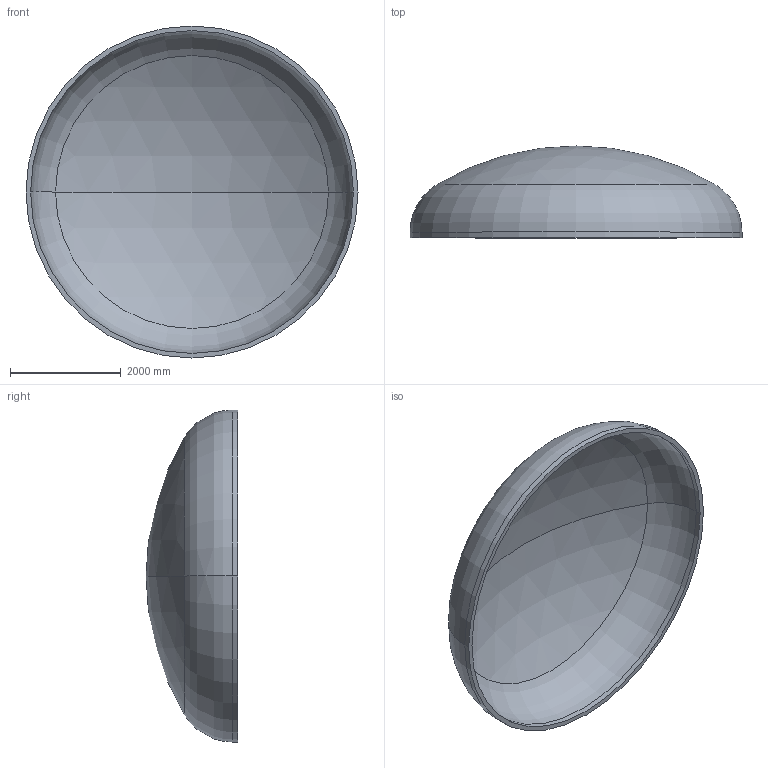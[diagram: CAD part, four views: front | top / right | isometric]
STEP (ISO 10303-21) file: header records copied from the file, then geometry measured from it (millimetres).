
FILE_DESCRIPTION (( 'STEP AP203' ), '1' );
FILE_NAME ('DIN 28013 Korbbogenform_-_Boden DIN 28013 - 6000 x 100 - I - s=84.step', '2016-07-04T10:38:20', ( '' ), ( '' ), 'SwSTEP 2.0', 'SolidWorks 2013', '' );
FILE_SCHEMA (( 'CONFIG_CONTROL_DESIGN' ));
Length unit declared in the file: millimetre
Products named in the file (1): DIN 28013 Korbbogenform_-_Boden DIN 28013 - 6000 x 100 - I - s=84
Bounding box: 6000 x 1659.61 x 6000 mm (x, y, z)
Volume: 3385924986.1 mm3; surface area: 82193204.9 mm2
Topology: 1 solids, 1 shells, 13 faces, 24 edges, 14 vertices
Faces by surface type: torus 4, cylinder 4, sphere 4, plane 1
Entity records: 407 total; most frequent: DIRECTION 72, CARTESIAN_POINT 52, ORIENTED_EDGE 48, AXIS2_PLACEMENT_3D 34, EDGE_CURVE 24, CIRCLE 20, VERTEX_POINT 14, EDGE_LOOP 14
